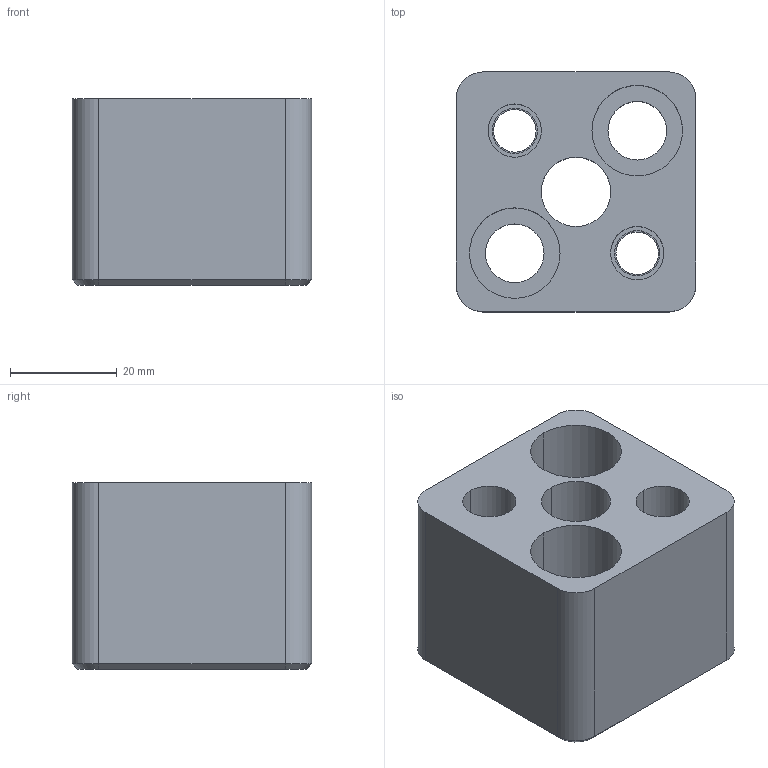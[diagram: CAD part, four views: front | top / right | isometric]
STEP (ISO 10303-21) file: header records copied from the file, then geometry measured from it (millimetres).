
FILE_DESCRIPTION(/* description */ (''),/* implementation_level */ '2;1');
FILE_NAME(/* name */ '3d_hsa-an13_04173_r00.stp',/* time_stamp */ '2011-01-10T14:14:37+09:00',/* author */ ('MISUMI'),/* organization */ (''),/* preprocessor_version */ 'ST-DEVELOPER v11',/* originating_system */ 'UGS - NX 5.0',/* authorisation */ '');
FILE_SCHEMA (('CONFIG_CONTROL_DESIGN'));
Length unit declared in the file: millimetre
Products named in the file (1): 3d_hsa-an13_04173_r00
Bounding box: 45 x 45 x 35 mm (x, y, z)
Volume: 48402.7 mm3; surface area: 15679.2 mm2
Topology: 1 solids, 1 shells, 51 faces, 116 edges, 74 vertices
Faces by surface type: cylinder 28, plane 17, cone 6
Entity records: 1563 total; most frequent: DIRECTION 277, CARTESIAN_POINT 257, ORIENTED_EDGE 232, EDGE_CURVE 116, AXIS2_PLACEMENT_3D 114, VERTEX_POINT 74, EDGE_LOOP 68, CIRCLE 62
